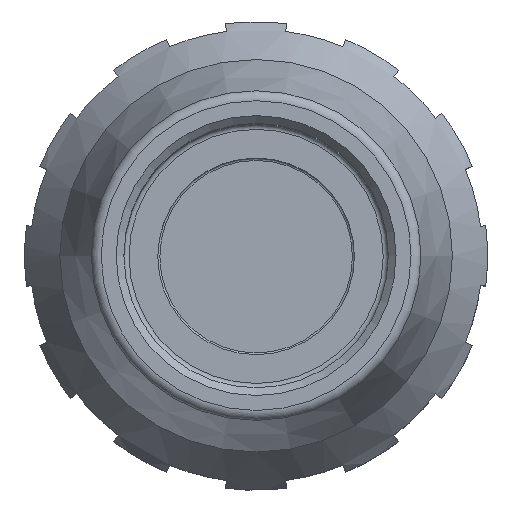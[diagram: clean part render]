
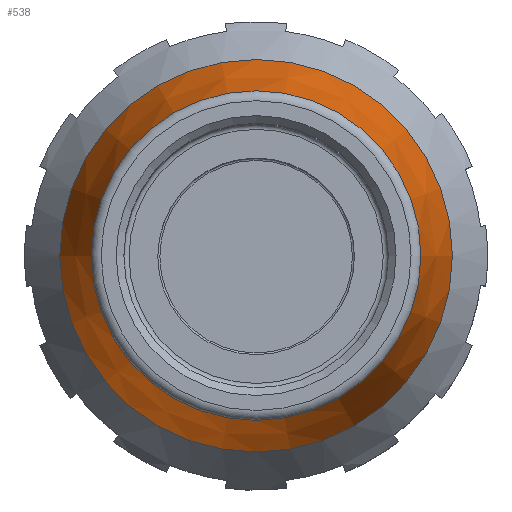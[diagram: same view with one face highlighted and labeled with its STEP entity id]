
A CAD part, top view. The second image highlights one B-rep face of the part: STEP entity #538.
In plain terms, the highlighted conical face has half-angle 15.392 degrees and reference radius 16.324 mm.
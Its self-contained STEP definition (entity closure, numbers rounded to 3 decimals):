
#538 = ADVANCED_FACE( '', ( #1160, #1161 ), #1162, .T. );
#1160 = FACE_OUTER_BOUND( '', #2571, .T. );
#1161 = FACE_BOUND( '', #2572, .T. );
#1162 = CONICAL_SURFACE( '', #2573, 16.324, 0.269 );
#2571 = EDGE_LOOP( '', ( #4139 ) );
#2572 = EDGE_LOOP( '', ( #4140 ) );
#2573 = AXIS2_PLACEMENT_3D( '', #4141, #4142, #4143 );
#4139 = ORIENTED_EDGE( '', *, *, #5026, .T. );
#4140 = ORIENTED_EDGE( '', *, *, #4828, .F. );
#4141 = CARTESIAN_POINT( '', ( 0., 0., 10.474 ) );
#4142 = DIRECTION( '', ( 0., 0., -1. ) );
#4143 = DIRECTION( '', ( -1., 0., 0. ) );
#4828 = EDGE_CURVE( '', #5519, #5519, #5520, .T. );
#5026 = EDGE_CURVE( '', #5868, #5868, #5869, .T. );
#5519 = VERTEX_POINT( '', #6644 );
#5520 = CIRCLE( '', #6645, 16.018 );
#5868 = VERTEX_POINT( '', #7279 );
#5869 = CIRCLE( '', #7280, 19.077 );
#6644 = CARTESIAN_POINT( '', ( 16.018, 0., 11.585 ) );
#6645 = AXIS2_PLACEMENT_3D( '', #8615, #8616, #8617 );
#7279 = CARTESIAN_POINT( '', ( -19.077, 0., 0.472 ) );
#7280 = AXIS2_PLACEMENT_3D( '', #8928, #8929, #8930 );
#8615 = CARTESIAN_POINT( '', ( 0., 0., 11.585 ) );
#8616 = DIRECTION( '', ( 0., 0., 1. ) );
#8617 = DIRECTION( '', ( 1., 0., 0. ) );
#8928 = CARTESIAN_POINT( '', ( 0., 0., 0.472 ) );
#8929 = DIRECTION( '', ( 0., 0., 1. ) );
#8930 = DIRECTION( '', ( -1., 0., 0. ) );
